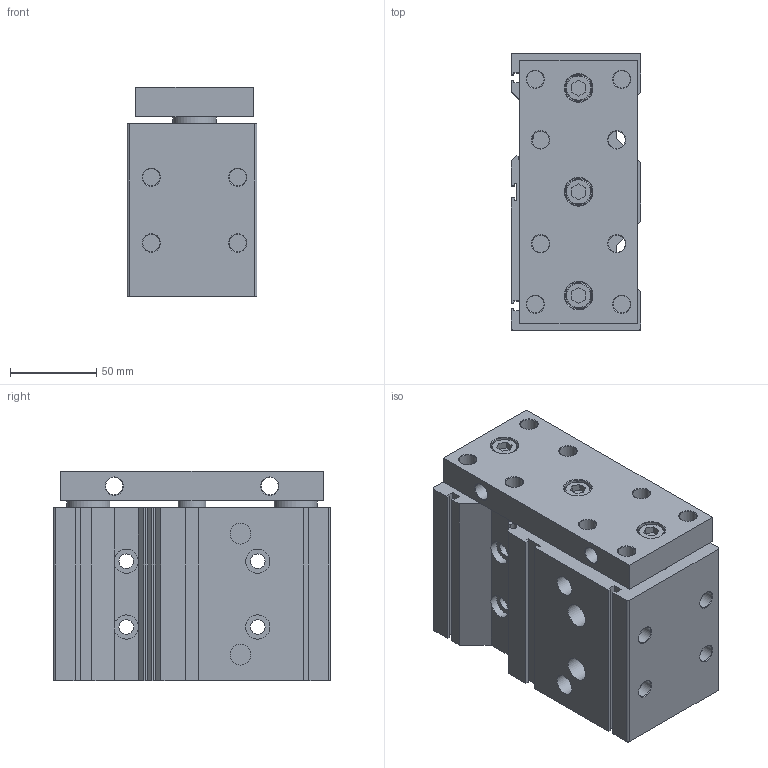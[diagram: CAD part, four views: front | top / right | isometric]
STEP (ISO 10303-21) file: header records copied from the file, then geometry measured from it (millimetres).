
FILE_DESCRIPTION((''),'2;1');
FILE_NAME('I:\3D電子目錄\氣缸\TB(U)\TB(U)63\TB(U)63\TB(U)63x50.stp','2007-08-06T09:29:07',('Administrator'),(''),'Autodesk Inventor 2008','Autodesk Inventor 2008','');
FILE_SCHEMA(('AUTOMOTIVE_DESIGN { 1 0 10303 214 1 1 1 1 }'));
Length unit declared in the file: millimetre
Products named in the file (1): TB(U)63X50
Bounding box: 75 x 160 x 121 mm (x, y, z)
Volume: 1194039 mm3; surface area: 127196.5 mm2
Topology: 1 solids, 1 shells, 206 faces, 462 edges, 294 vertices
Faces by surface type: plane 106, cylinder 52, cone 37, bspline 8, torus 3
Full cylindrical faces by diameter (mm): 8.5 x4, 10 x22, 12 x2, 14 x4, 15 x3, 16 x4, 25 x4, 32 x2, 60 x1
Entity records: 5380 total; most frequent: CARTESIAN_POINT 949, DIRECTION 924, ORIENTED_EDGE 740, EDGE_CURVE 370, EDGE_LOOP 364, AXIS2_PLACEMENT_3D 355, VERTEX_POINT 292, VECTOR 214
